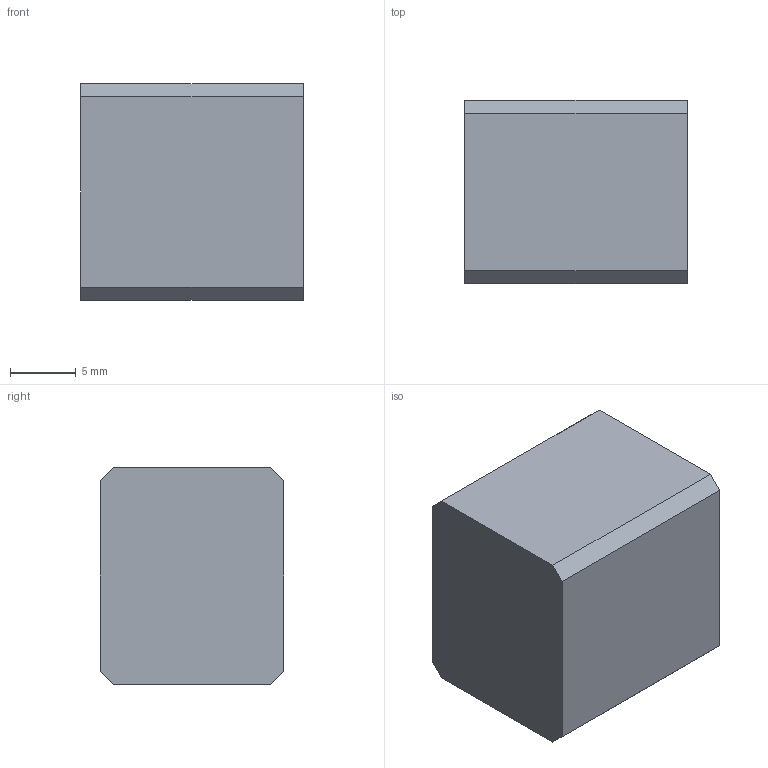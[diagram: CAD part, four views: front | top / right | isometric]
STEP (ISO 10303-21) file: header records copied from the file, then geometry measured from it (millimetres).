
FILE_DESCRIPTION(/* description */ (''),/* implementation_level */ '2;1');
FILE_NAME(/* name */ 'H:/90-PROJECTS/RJ45 PROTECTOR CAP/RJ45 Protector v4.step',/* time_stamp */ '2018-04-02T00:23:40+03:00',/* author */ ('MBACIKGOZ'),/* organization */ (''),/* preprocessor_version */ 'ST-DEVELOPER v16.13',/* originating_system */ 'Autodesk Translation Framework v6.5.0.72',/* authorisation */ '');
FILE_SCHEMA (('AUTOMOTIVE_DESIGN { 1 0 10303 214 3 1 1 }'));
Length unit declared in the file: millimetre
Products named in the file (1): RJ45 Protector
Bounding box: 17 x 14 x 16.5 mm (x, y, z)
Volume: 2305.3 mm3; surface area: 2129.9 mm2
Topology: 1 solids, 1 shells, 25 faces, 66 edges, 44 vertices
Faces by surface type: plane 25
Entity records: 793 total; most frequent: CARTESIAN_POINT 136, ORIENTED_EDGE 132, DIRECTION 118, LINE 66, VECTOR 66, EDGE_CURVE 66, VERTEX_POINT 44, EDGE_LOOP 26
